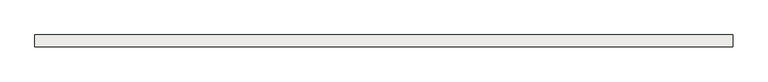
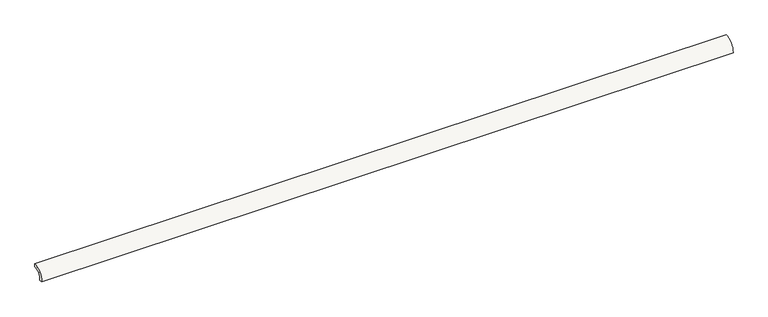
"""IFC4 building model written with IfcOpenShell, lengths in millimetres: slab geometry, ROSA GRES_183 : Pieza 183_Tresor_Java_Anti-Slip."""

from ifc_helpers import new_model, si_unit, point, frame, frame_2d, origin, origin_2d, place, context, project, spatial, polyline, circle_curve, trimmed, segment, composite_curve, outline, extrude, source, transform, mapped, element, save


def slab_16eb6e68(model_context):
    return source(origin(), model_context, "Body", "SweptSolid", [
        extrude(outline(composite_curve([segment(polyline([(0.0, 40.0), (0.0, 30.0265886)]), True, "CONTINUOUS"), segment(trimmed(circle_curve(frame_2d((-0.0044453, 0.0044453)), 30.0221435), [point((0.0, 30.0265886))], [point((-30.0265886, 0.0))], True, "CARTESIAN"), True, "CONTINUOUS"), segment(polyline([(-30.0265886, 0.0), (-40.0, 0.0)]), True, "CONTINUOUS"), segment(trimmed(circle_curve(origin_2d(), 40.0), [point((-40.0, 0.0))], [point((0.0, 40.0))], False, "CARTESIAN"), True, "CONTINUOUS")], self_intersect=False)), frame((0.0, 0.0, 0.0), z_axis=(1.0, 0.0, 0.0), x_axis=(0.0, 1.0, 0.0)), (0.0, 0.0, 1.0), 2360.0),
    ])


if __name__ == "__main__":
    model = new_model("IFC4")
    model_context = context("Model", 3, world=origin())
    ifc_project = project(units=[si_unit("LENGTHUNIT", "METRE", prefix="MILLI")], contexts=[model_context])
    site = spatial("IfcSite", under=ifc_project)
    building = spatial("IfcBuilding", under=site)
    placement = place(None, origin())
    slab_shape = slab_16eb6e68(model_context)
    element("IfcSlab", 1, ObjectType="ROSA GRES_183 : Pieza 183_Tresor_Java_Anti-Slip", at=placement, inside=building, context=model_context, shape_type="MappedRepresentation", body=[
        mapped(slab_shape, transform((0.0, 0.0, 0.0), x_axis=(1.0, 0.0, 0.0), y_axis=(0.0, 1.0, 0.0), z_axis=(0.0, 0.0, 1.0))),
    ])
    save(model, "model.ifc")
